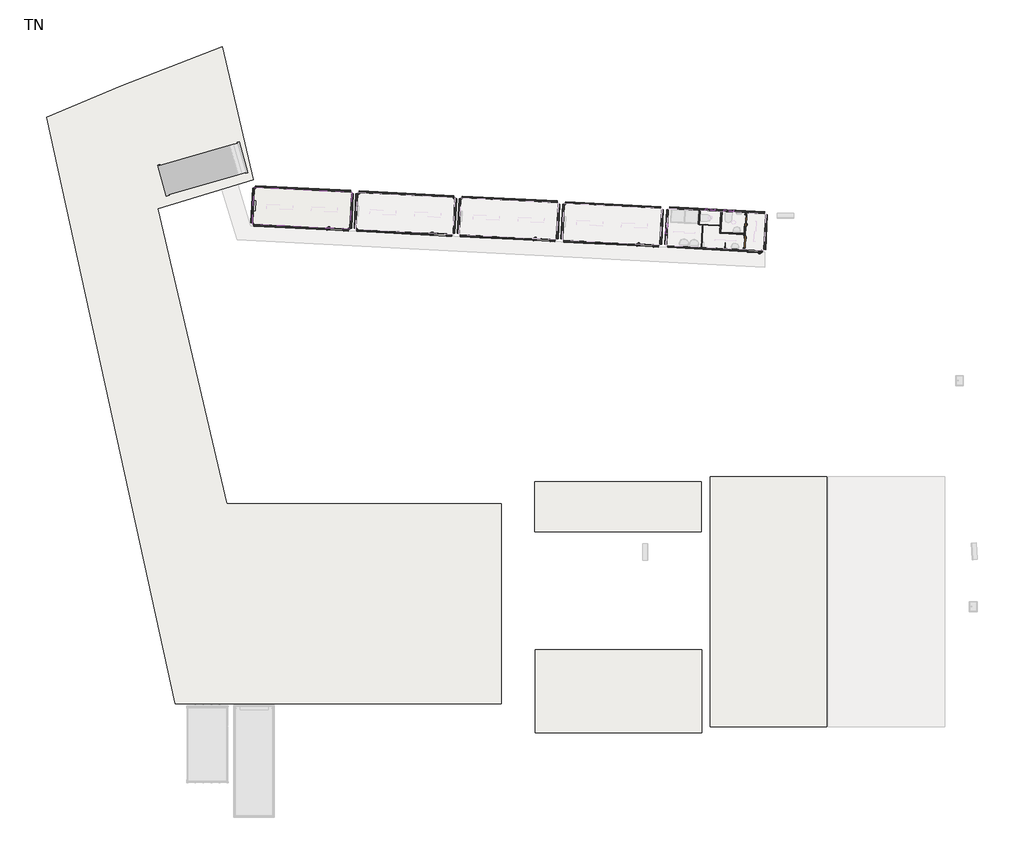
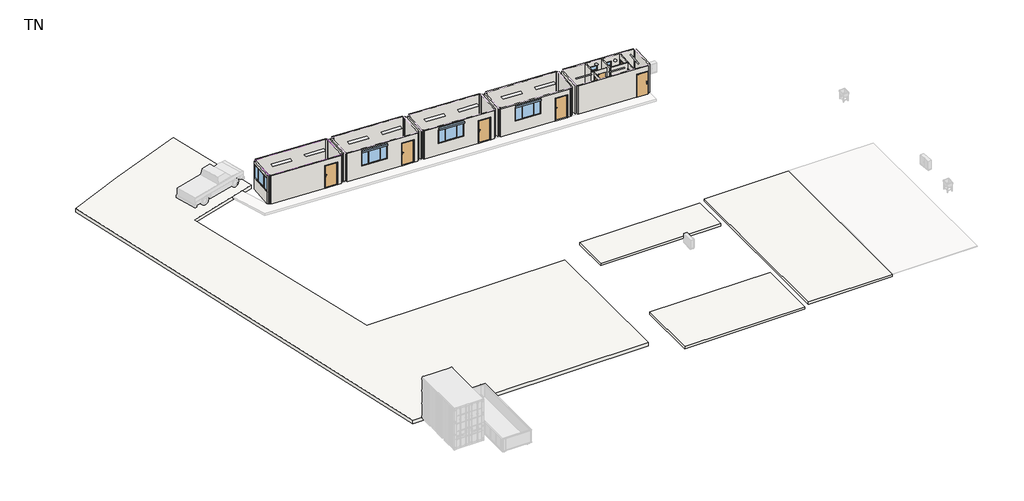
# One storey, part 1 of 2: 31 walls, 9 doors, 7 windows, 5 slabs, 1 covering.
"""IFC4 building model written with IfcOpenShell, lengths in millimetres."""

from ifc_helpers import new_model, si_unit, frame, origin, origin_with_axes, place, context, project, spatial, polyline, outline, extrude, faceted_brep, transform, mapped, element, save
from components import door_1000_x_2000_992f7151, door_625_x_1850_262aa099, door_750_x_1850_40ba4f02, door_750_x_2000_4c170372, door_750_x_2000_b44a9dc9, door_875_x_2000_42ee14d7, wall_747ce406, wall_2a85aa9a, wall_046b6ac7, wall_475fbb6f, window_2071_x_1200_fca12dad, window_2071_x_1200_b3dbcdca, window_600_x_400_23721c96

model = new_model("IFC4")

# Units and contexts
model_context = context("Model", 3, world=origin())
ifc_project = project(units=[si_unit("LENGTHUNIT", "METRE", prefix="MILLI")], contexts=[model_context])

# Site, building, storey
site = spatial("IfcSite", under=ifc_project)
building = spatial("IfcBuilding", under=site)
storey = spatial("IfcBuildingStorey", under=building, Name="TN", Elevation=0.0)

# Covering
placement = place(None, origin())
element("IfcCovering", 1, ObjectType="Constuction_Ceiling_Zeppelin-Rental-GmbH", at=placement, inside=storey, context=model_context, shape_type="SweptSolid", body=[
    extrude(outline(polyline([(-65857.5664145, 57948.3401064), (-65974.2755969, 55721.3962439), (-71816.2583753, 56027.561588), (-71699.5491928, 58254.5054505), (-65857.5664145, 57948.3401064)])), frame((0.0, 0.0, 2459.0), z_axis=(0.0, 0.0, 1.0), x_axis=(1.0, 0.0, 0.0)), (0.0, 0.0, 1.0), 220.0),
])

# Doors
door_1000_x_2000_shape = door_1000_x_2000_992f7151(model_context)
element("IfcDoor", 2, ObjectType="Door_Zeppelin-Rental-GmbH_Single-Leaf-Door : 1000 x 2000", at=placement, inside=storey, context=model_context, shape_type="MappedRepresentation", body=[
    mapped(door_1000_x_2000_shape, transform((-66851.7965616, 55715.313807, 0.0), x_axis=(-0.9986295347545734, 0.05233595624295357, 0.0), y_axis=(-0.05233595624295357, -0.9986295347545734, 0.0), z_axis=(0.0, 0.0, 1.0))),
])
element("IfcDoor", 3, ObjectType="Door_Zeppelin-Rental-GmbH_Single-Leaf-Door : 1000 x 2000", at=placement, inside=storey, context=model_context, shape_type="MappedRepresentation", body=[
    mapped(door_1000_x_2000_shape, transform((-60651.7934389, 55398.7302335, 0.0), x_axis=(-0.9986295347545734, 0.05233595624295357, 0.0), y_axis=(-0.05233595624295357, -0.9986295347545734, 0.0), z_axis=(0.0, 0.0, 1.0))),
])
element("IfcDoor", 4, ObjectType="Door_Zeppelin-Rental-GmbH_Single-Leaf-Door : 1000 x 2000", at=placement, inside=storey, context=model_context, shape_type="MappedRepresentation", body=[
    mapped(door_1000_x_2000_shape, transform((-54444.2967822, 55084.4375081, 0.0), x_axis=(-0.9986295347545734, 0.05233595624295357, 0.0), y_axis=(-0.05233595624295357, -0.9986295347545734, 0.0), z_axis=(0.0, 0.0, 1.0))),
])
element("IfcDoor", 5, ObjectType="Door_Zeppelin-Rental-GmbH_Single-Leaf-Door : 1000 x 2000", at=placement, inside=storey, context=model_context, shape_type="MappedRepresentation", body=[
    mapped(door_1000_x_2000_shape, transform((-48232.2833689, 54750.7709424, 0.0), x_axis=(-0.9986295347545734, 0.05233595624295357, 0.0), y_axis=(-0.05233595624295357, -0.9986295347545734, 0.0), z_axis=(0.0, 0.0, 1.0))),
])
door_625_x_1850_shape = door_625_x_1850_262aa099(model_context)
element("IfcDoor", 6, ObjectType="Door_Zeppelin-Rental-GmbH_Single-Leaf-Door_Sanitary : 625 x 1850", at=placement, inside=storey, context=model_context, shape_type="MappedRepresentation", body=[
    mapped(door_625_x_1850_shape, transform((-44117.1006068, 55970.6684319, 0.0), x_axis=(-0.9986295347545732, 0.05233595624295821, 0.0), y_axis=(-0.05233595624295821, -0.9986295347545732, 0.0), z_axis=(0.0, 0.0, 1.0))),
])
door_750_x_1850_shape = door_750_x_1850_40ba4f02(model_context)
element("IfcDoor", 7, ObjectType="Door_Zeppelin-Rental-GmbH_Single-Leaf-Door_Sanitary : 750 x 1850", at=placement, inside=storey, context=model_context, shape_type="MappedRepresentation", body=[
    mapped(door_750_x_1850_shape, transform((-44803.7552239, 55498.4580723, 0.0), x_axis=(-0.0523359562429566, -0.9986295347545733, 0.0), y_axis=(0.9986295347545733, -0.0523359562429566, 0.0), z_axis=(0.0, 0.0, 1.0))),
])
door_750_x_2000_shape = door_750_x_2000_4c170372(model_context)
element("IfcDoor", 8, ObjectType="Door_Zeppelin-Rental-GmbH_Single-Leaf-Door : 750 x 2000", at=placement, inside=storey, context=model_context, shape_type="MappedRepresentation", body=[
    mapped(door_750_x_2000_shape, transform((-42212.2211669, 56252.861543, 0.0), x_axis=(-0.05233595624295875, -0.9986295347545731, 0.0), y_axis=(0.9986295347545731, -0.05233595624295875, 0.0), z_axis=(0.0, 0.0, 1.0))),
])
door_750_x_2000_2_shape = door_750_x_2000_b44a9dc9(model_context)
element("IfcDoor", 9, ObjectType="Door_Zeppelin-Rental-GmbH_Single-Leaf-Door : 750 x 2000", at=placement, inside=storey, context=model_context, shape_type="MappedRepresentation", body=[
    mapped(door_750_x_2000_2_shape, transform((-42279.2112039, 54974.6154897, 0.0), x_axis=(0.05233595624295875, 0.9986295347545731, 0.0), y_axis=(-0.9986295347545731, 0.05233595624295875, 0.0), z_axis=(0.0, 0.0, 1.0))),
])
door_875_x_2000_shape = door_875_x_2000_42ee14d7(model_context)
element("IfcDoor", 10, ObjectType="Door_Zeppelin-Rental-GmbH_Single-Leaf-Door : 875 x 2000", at=placement, inside=storey, context=model_context, shape_type="MappedRepresentation", body=[
    mapped(door_875_x_2000_shape, transform((-41681.1508654, 54415.5493739, 0.0), x_axis=(0.9986295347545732, -0.05233595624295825, 0.0), y_axis=(0.05233595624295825, 0.9986295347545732, 0.0), z_axis=(0.0, 0.0, 1.0))),
])

# Slabs
element("IfcSlab", 11, ObjectType="Constuction_Floor_Zeppelin-Rental-GmbH", at=placement, inside=storey, context=model_context, shape_type="Brep", body=[
    faceted_brep([(-65857.5664113, 57948.3401686, -21.0), (-65861.5439439, 57872.444324, -21.0), (-65970.2980675, 55797.2920264, -21.0), (-65974.2755969, 55721.3962439, -21.0), (-66050.1714641, 55725.3737778, -21.0), (-71740.3625531, 56023.5840565, -21.0), (-71816.2583753, 56027.561588, -21.0), (-71812.2808426, 56103.4574326, -21.0), (-71703.5267223, 58178.609668, -21.0), (-71699.5491896, 58254.5055127, -21.0), (-71623.6533675, 58250.5279812, -21.0), (-65933.4622784, 57952.3177025, -21.0), (-65974.2755969, 55721.3962439, 0.0), (-65857.5664113, 57948.3401686, 0.0), (-71699.5491896, 58254.5055127, 0.0), (-71816.2583753, 56027.561588, 0.0), (-67348.3898593, 55793.4105209, 0.0), (-66349.7603245, 55741.0745647, 0.0)], [[[0, 1, 2, 3, 4, 5, 6, 7, 8, 9, 10, 11]], [[12, 13, 14, 15, 16, 17]], [[13, 0, 11, 10, 9, 14]], [[0, 13, 12, 3, 2, 1]], [[3, 12, 17, 16, 15, 6, 5, 4]], [[6, 15, 14, 9, 8, 7]]]),
])
element("IfcSlab", 12, ObjectType="zone de stockage 2", at=placement, inside=storey, context=model_context, shape_type="SweptSolid", body=[
    extrude(outline(polyline([(-44321.3156879, 40855.3840948), (-37321.3156879, 40855.3840948), (-37321.3156879, 25855.3840948), (-44321.3156879, 25855.3840948), (-44321.3156879, 40855.3840948)])), frame((0.0, 0.0, -200.0), z_axis=(0.0, 0.0, 1.0), x_axis=(1.0, 0.0, 0.0)), (0.0, 0.0, 1.0), 200.0),
])
element("IfcSlab", 13, ObjectType="zone de stockage 2", at=placement, inside=storey, context=model_context, shape_type="SweptSolid", body=[
    extrude(outline(polyline([(-54840.1965481, 25484.8671589), (-54840.1965481, 30484.8671589), (-44840.1965481, 30484.8671589), (-44840.1965481, 25484.8671589), (-54840.1965481, 25484.8671589)])), frame((0.0, 0.0, -200.0), z_axis=(0.0, 0.0, 1.0), x_axis=(1.0, 0.0, 0.0)), (0.0, 0.0, 1.0), 200.0),
])
element("IfcSlab", 14, ObjectType="zone de stockage 2", at=placement, inside=storey, context=model_context, shape_type="SweptSolid", body=[
    extrude(outline(polyline([(-54863.7782907, 40570.1013524), (-44863.7782907, 40570.1013524), (-44863.7782907, 37570.1013524), (-54863.7782907, 37570.1013524), (-54863.7782907, 40570.1013524)])), frame((0.0, 0.0, -200.0), z_axis=(0.0, 0.0, 1.0), x_axis=(1.0, 0.0, 0.0)), (0.0, 0.0, 1.0), 200.0),
])
element("IfcSlab", 15, ObjectType="Voirie", at=placement, inside=storey, context=model_context, shape_type="SweptSolid", body=[
    extrude(outline(polyline([(-73620.4435079, 66700.8768306), (-71759.7477256, 58714.7757039), (-77497.5762613, 56960.5454756), (-73367.739281, 39235.2966334), (-56867.739281, 39235.2966334), (-56867.739281, 27235.2966334), (-76467.739281, 27235.2966334), (-84187.1336343, 62459.5853338), (-79684.0098364, 64359.2612816), (-73620.4435079, 66700.8768306)])), frame((0.0, 0.0, -300.0), z_axis=(0.0, 0.0, 1.0), x_axis=(1.0, 0.0, 0.0)), (0.0, 0.0, 1.0), 300.0),
])

# Walls
element("IfcWall", 16, ObjectType="Constuction_Wall_Zeppelin-Rental-GmbH", at=placement, inside=storey, context=model_context, shape_type="SweptSolid", body=[
    extrude(outline(polyline([(-65933.4622817, 57952.3176403), (-71623.6533707, 58250.527919), (-71618.2104313, 58354.3853906), (-65928.0193422, 58056.1751119), (-65933.4622817, 57952.3176403)])), frame((0.0, 0.0, -21.0), z_axis=(0.0, 0.0, 1.0), x_axis=(1.0, 0.0, 0.0)), (0.0, 0.0, 1.0), 2480.0),
])
element("IfcWall", 17, ObjectType="Constuction_Wall_Zeppelin-Rental-GmbH", at=placement, inside=storey, context=model_context, shape_type="SweptSolid", body=[
    extrude(outline(polyline([(-65970.2980675, 55797.2920264), (-65861.5439439, 57872.444324), (-65757.6864723, 57867.0013845), (-65866.4405959, 55791.8490869), (-65970.2980675, 55797.2920264)])), frame((0.0, 0.0, -21.0), z_axis=(0.0, 0.0, 1.0), x_axis=(1.0, 0.0, 0.0)), (0.0, 0.0, 1.0), 2480.0),
])
element("IfcWall", 18, ObjectType="Constuction_Wall_Zeppelin-Rental-GmbH", at=placement, inside=storey, context=model_context, shape_type="SweptSolid", body=[
    extrude(outline(polyline([(0.0, 0.0), (0.0, -2480.0), (-5698.0, -2480.0), (-5698.0, 0.0), (0.0, 0.0)]), holes=[polyline([(-1299.9999999, -21.0), (-1299.9999999, -2021.0), (-300.0, -2021.0), (-300.0, -21.0), (-1299.9999999, -21.0)])]), frame((-66055.6144036, 55621.5163062, -21.0), z_axis=(0.05233595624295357, 0.9986295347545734, 0.0), x_axis=(0.9986295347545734, -0.05233595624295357, 0.0)), (0.0, 0.0, 1.0), 104.0),
])
element("IfcWall", 19, ObjectType="Constuction_Wall_Zeppelin-Rental-GmbH", at=placement, inside=storey, context=model_context, shape_type="SweptSolid", body=[
    extrude(outline(polyline([(0.0, 0.0), (2078.0000623, 0.0), (2078.0000623, -2480.0), (0.0, -2480.0), (0.0, 0.0)]), holes=[polyline([(3.5, -2221.0), (2074.5000001, -2221.0), (2074.5000001, -1021.0), (3.5, -1021.0), (3.5, -2221.0)])]), frame((-71812.2808426, 56103.4574326, -21.0), z_axis=(-0.9986295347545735, 0.052335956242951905, 0.0), x_axis=(0.052335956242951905, 0.9986295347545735, 0.0)), (0.0, 0.0, 1.0), 104.0),
])
element("IfcWall", 20, ObjectType="Constuction_Wall_Zeppelin-Rental-GmbH", at=placement, inside=storey, context=model_context, shape_type="SweptSolid", body=[
    extrude(outline(polyline([(-59733.4591589, 57635.7340668), (-65423.650248, 57933.9443455), (-65418.2073085, 58037.8018171), (-59728.0162195, 57739.5915384), (-59733.4591589, 57635.7340668)])), frame((0.0, 0.0, -21.0), z_axis=(0.0, 0.0, 1.0), x_axis=(1.0, 0.0, 0.0)), (0.0, 0.0, 1.0), 2480.0),
])
element("IfcWall", 21, ObjectType="Constuction_Wall_Zeppelin-Rental-GmbH", at=placement, inside=storey, context=model_context, shape_type="SweptSolid", body=[
    extrude(outline(polyline([(-59770.2949448, 55480.7084529), (-59661.5408212, 57555.8607505), (-59557.6833496, 57550.417811), (-59666.4374732, 55475.2655134), (-59770.2949448, 55480.7084529)])), frame((0.0, 0.0, -21.0), z_axis=(0.0, 0.0, 1.0), x_axis=(1.0, 0.0, 0.0)), (0.0, 0.0, 1.0), 2480.0),
])
element("IfcWall", 22, ObjectType="Constuction_Wall_Zeppelin-Rental-GmbH", at=placement, inside=storey, context=model_context, shape_type="SweptSolid", body=[
    extrude(outline(polyline([(0.0, 0.0), (0.0, -2480.0), (-5698.0, -2480.0), (-5698.0, 0.0), (0.0, 0.0)]), holes=[polyline([(-1300.0, -21.0), (-1300.0, -2021.0), (-300.0, -2021.0), (-300.0, -21.0), (-1300.0, -21.0)]), polyline([(-4534.5, -1021.0), (-4534.5, -2221.0), (-2463.5, -2221.0), (-2463.5, -1021.0), (-4534.5, -1021.0)])]), frame((-59855.6112808, 55304.9327327, -21.0), z_axis=(0.05233595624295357, 0.9986295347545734, 0.0), x_axis=(0.9986295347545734, -0.05233595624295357, 0.0)), (0.0, 0.0, 1.0), 104.0),
])
element("IfcWall", 23, ObjectType="Constuction_Wall_Zeppelin-Rental-GmbH", at=placement, inside=storey, context=model_context, shape_type="SweptSolid", body=[
    extrude(outline(polyline([(-65503.5235995, 57862.0260945), (-65612.2777198, 55786.8738591), (-65716.1351914, 55792.3167985), (-65607.3810711, 57867.469034), (-65503.5235995, 57862.0260945)])), frame((0.0, 0.0, -21.0), z_axis=(0.0, 0.0, 1.0), x_axis=(1.0, 0.0, 0.0)), (0.0, 0.0, 1.0), 2480.0),
])
element("IfcWall", 24, ObjectType="Constuction_Wall_Zeppelin-Rental-GmbH", at=placement, inside=storey, context=model_context, shape_type="SweptSolid", body=[
    extrude(outline(polyline([(-53525.9625022, 57321.4413414), (-59216.1535913, 57619.6516201), (-59210.7106518, 57723.5090917), (-53520.5195628, 57425.298813), (-53525.9625022, 57321.4413414)])), frame((0.0, 0.0, -21.0), z_axis=(0.0, 0.0, 1.0), x_axis=(1.0, 0.0, 0.0)), (0.0, 0.0, 1.0), 2480.0),
])
element("IfcWall", 25, ObjectType="Constuction_Wall_Zeppelin-Rental-GmbH", at=placement, inside=storey, context=model_context, shape_type="SweptSolid", body=[
    extrude(outline(polyline([(-53562.7982881, 55166.4157275), (-53454.0441645, 57241.5680251), (-53350.1866929, 57236.1250856), (-53458.9408165, 55160.972788), (-53562.7982881, 55166.4157275)])), frame((0.0, 0.0, -21.0), z_axis=(0.0, 0.0, 1.0), x_axis=(1.0, 0.0, 0.0)), (0.0, 0.0, 1.0), 2480.0),
])
element("IfcWall", 26, ObjectType="Constuction_Wall_Zeppelin-Rental-GmbH", at=placement, inside=storey, context=model_context, shape_type="SweptSolid", body=[
    extrude(outline(polyline([(0.0, 0.0), (0.0, -2480.0), (-5698.0000001, -2480.0), (-5698.0000001, 0.0), (0.0, 0.0)]), holes=[polyline([(-1300.0, -21.0), (-1300.0, -2021.0), (-300.0, -2021.0), (-300.0, -21.0), (-1300.0, -21.0)]), polyline([(-4534.5000001, -1021.0), (-4534.5000001, -2221.0), (-2463.5, -2221.0), (-2463.5, -1021.0), (-4534.5000001, -1021.0)])]), frame((-53648.1146241, 54990.6400073, -21.0), z_axis=(0.05233595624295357, 0.9986295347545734, 0.0), x_axis=(0.9986295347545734, -0.05233595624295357, 0.0)), (0.0, 0.0, 1.0), 104.0),
])
element("IfcWall", 27, ObjectType="Constuction_Wall_Zeppelin-Rental-GmbH", at=placement, inside=storey, context=model_context, shape_type="SweptSolid", body=[
    extrude(outline(polyline([(-59296.0269428, 57547.7333691), (-59404.7810632, 55472.5811337), (-59508.6385348, 55478.0240731), (-59399.8844144, 57553.1763086), (-59296.0269428, 57547.7333691)])), frame((0.0, 0.0, -21.0), z_axis=(0.0, 0.0, 1.0), x_axis=(1.0, 0.0, 0.0)), (0.0, 0.0, 1.0), 2480.0),
])
element("IfcWall", 28, ObjectType="Constuction_Wall_Zeppelin-Rental-GmbH", at=placement, inside=storey, context=model_context, shape_type="SweptSolid", body=[
    extrude(outline(polyline([(-47313.9490889, 56987.7747757), (-53004.1401779, 57285.9850544), (-52998.6972385, 57389.842526), (-47308.5061495, 57091.6322473), (-47313.9490889, 56987.7747757)])), frame((0.0, 0.0, -21.0), z_axis=(0.0, 0.0, 1.0), x_axis=(1.0, 0.0, 0.0)), (0.0, 0.0, 1.0), 2480.0),
])
element("IfcWall", 29, ObjectType="Constuction_Wall_Zeppelin-Rental-GmbH", at=placement, inside=storey, context=model_context, shape_type="SweptSolid", body=[
    extrude(outline(polyline([(-47350.7848748, 54832.7491618), (-47242.0307512, 56907.9014594), (-47138.1732796, 56902.45852), (-47246.9274032, 54827.3062224), (-47350.7848748, 54832.7491618)])), frame((0.0, 0.0, -21.0), z_axis=(0.0, 0.0, 1.0), x_axis=(1.0, 0.0, 0.0)), (0.0, 0.0, 1.0), 2480.0),
])
element("IfcWall", 30, ObjectType="Constuction_Wall_Zeppelin-Rental-GmbH", at=placement, inside=storey, context=model_context, shape_type="SweptSolid", body=[
    extrude(outline(polyline([(0.0, 0.0), (0.0, -2480.0), (-5698.0, -2480.0), (-5698.0, 0.0), (0.0, 0.0)]), holes=[polyline([(-1300.0, -21.0), (-1300.0, -2021.0), (-300.0, -2021.0), (-300.0, -21.0), (-1300.0, -21.0)]), polyline([(-4534.5, -1021.0), (-4534.5, -2221.0), (-2463.5, -2221.0), (-2463.5, -1021.0), (-4534.5, -1021.0)])]), frame((-47436.1012108, 54656.9734416, -21.0), z_axis=(0.05233595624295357, 0.9986295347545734, 0.0), x_axis=(0.9986295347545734, -0.05233595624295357, 0.0)), (0.0, 0.0, 1.0), 104.0),
])
element("IfcWall", 31, ObjectType="Constuction_Wall_Zeppelin-Rental-GmbH", at=placement, inside=storey, context=model_context, shape_type="SweptSolid", body=[
    extrude(outline(polyline([(-53084.0135295, 57214.0668034), (-53192.7676498, 55138.914568), (-53296.6251214, 55144.3575075), (-53187.8710011, 57219.5097429), (-53084.0135295, 57214.0668034)])), frame((0.0, 0.0, -21.0), z_axis=(0.0, 0.0, 1.0), x_axis=(1.0, 0.0, 0.0)), (0.0, 0.0, 1.0), 2480.0),
])
element("IfcWall", 32, ObjectType="Constuction_Wall_Zeppelin-Rental-GmbH", at=placement, inside=storey, context=model_context, shape_type="Brep", body=[
    faceted_brep([(-46760.0862789, 56966.8567936, -21.0), (-41069.8951899, 56668.646515, -21.0), (-41069.8951899, 56668.646515, 2459.0), (-42152.4095605, 56725.3786892, 2459.0), (-42222.3136279, 56729.0422061, 2459.0), (-43610.4087038, 56801.7891865, 2459.0), (-43680.3127712, 56805.4527034, 2459.0), (-44928.5996896, 56870.8726487, 2459.0), (-44998.5037571, 56874.5361656, 2459.0), (-46760.0862789, 56966.8567936, 2459.0), (-44636.9998655, 56855.5905495, 1612.0), (-44636.9998655, 56855.5905495, 2012.0), (-44037.8221446, 56824.1889757, 2012.0), (-44037.8221446, 56824.1889757, 1612.0), (-43503.5660078, 56796.189798, 1612.0), (-43503.5660078, 56796.189798, 2012.0), (-42904.3882869, 56764.7882243, 2012.0), (-42904.3882869, 56764.7882243, 1612.0), (-46754.6433394, 57070.7142652, -21.0), (-46754.6433394, 57070.7142652, 2459.0), (-41064.4522504, 56772.5039866, 2459.0), (-41064.4522504, 56772.5039866, -21.0), (-44631.556926, 56959.4480211, 1612.0), (-44032.3792052, 56928.0464473, 1612.0), (-44032.3792052, 56928.0464473, 2012.0), (-44631.556926, 56959.4480211, 2012.0), (-43498.1230683, 56900.0472696, 1612.0), (-42898.9453475, 56868.6456959, 1612.0), (-42898.9453475, 56868.6456959, 2012.0), (-43498.1230683, 56900.0472696, 2012.0)], [[[0, 1, 2, 3, 4, 5, 6, 7, 8, 9], [10, 11, 12, 13], [14, 15, 16, 17]], [[18, 19, 20, 21], [22, 23, 24, 25], [26, 27, 28, 29]], [[1, 0, 18, 21]], [[2, 1, 21, 20]], [[9, 8, 7, 6, 5, 4, 3, 2, 20, 19]], [[0, 9, 19, 18]], [[11, 10, 22, 25]], [[12, 11, 25, 24]], [[13, 12, 24, 23]], [[10, 13, 23, 22]], [[15, 14, 26, 29]], [[16, 15, 29, 28]], [[17, 16, 28, 27]], [[14, 17, 27, 26]]]),
])
element("IfcWall", 33, ObjectType="Constuction_Wall_Zeppelin-Rental-GmbH", at=placement, inside=storey, context=model_context, shape_type="SweptSolid", body=[
    extrude(outline(polyline([(-41106.7309757, 54513.620901), (-40997.9768521, 56588.7731987), (-40894.1193805, 56583.3302592), (-41002.8735041, 54508.1779616), (-41106.7309757, 54513.620901)])), frame((0.0, 0.0, -21.0), z_axis=(0.0, 0.0, 1.0), x_axis=(1.0, 0.0, 0.0)), (0.0, 0.0, 1.0), 2480.0),
])
element("IfcWall", 34, ObjectType="Constuction_Wall_Zeppelin-Rental-GmbH", at=placement, inside=storey, context=model_context, shape_type="Brep", body=[
    faceted_brep([(-41186.6043723, 54441.7026524, -21.0), (-46876.7954613, 54739.9129311, -21.0), (-46876.7954613, 54739.9129311, 2459.0), (-42339.0228104, 54502.0983436, 2459.0), (-42269.1187429, 54498.4348267, 2459.0), (-41186.6043723, 54441.7026524, 2459.0), (-41241.5289742, 54444.5811289, 2000.0), (-42115.3298171, 54490.3750906, 2000.0), (-42115.3298171, 54490.3750906, 0.0), (-41241.5289742, 54444.5811289, 0.0), (-46882.2384008, 54636.0554595, -21.0), (-41192.0473117, 54337.8451808, -21.0), (-41192.0473117, 54337.8451808, 2459.0), (-46882.2384008, 54636.0554595, 2459.0), (-42120.7727565, 54386.517619, 2000.0), (-41246.9719136, 54340.7236572, 2000.0), (-41246.9719136, 54340.7236572, 0.0), (-42120.7727565, 54386.517619, 0.0)], [[[0, 1, 2, 3, 4, 5], [6, 7, 8, 9]], [[10, 11, 12, 13], [14, 15, 16, 17]], [[1, 0, 11, 10]], [[2, 1, 10, 13]], [[5, 4, 3, 2, 13, 12]], [[0, 5, 12, 11]], [[6, 15, 14, 7]], [[7, 14, 17, 8]], [[8, 17, 16, 9]], [[15, 6, 9, 16]]]),
])
element("IfcWall", 35, ObjectType="Constuction_Wall_Zeppelin-Rental-GmbH", at=placement, inside=storey, context=model_context, shape_type="SweptSolid", body=[
    extrude(outline(polyline([(0.0, 0.0), (2078.0000623, 0.0), (2078.0000623, -2480.0), (0.0, -2480.0), (0.0, 0.0)]), holes=[polyline([(1238.9999999, -2033.0), (1238.9999999, -1633.0), (639.0, -1633.0), (639.0, -2033.0), (1238.9999999, -2033.0)])]), frame((-46948.7137508, 54819.7863073, -21.0), z_axis=(-0.9986295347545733, 0.05233595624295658, 0.0), x_axis=(0.05233595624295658, 0.9986295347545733, 0.0)), (0.0, 0.0, 1.0), 104.0),
])
element("IfcWall", 36, ObjectType="Constuction_Wall_Zeppelin-Rental-GmbH_Interior", at=placement, inside=storey, context=model_context, shape_type="Brep", body=[
    faceted_brep([(-43680.3127712, 56805.4527034, 0.0), (-43749.3962269, 55487.2618419, 0.0), (-43749.3962269, 55487.2618419, 2459.0), (-43680.3127712, 56805.4527034, 2459.0), (-43610.4087038, 56801.7891865, 0.0), (-43610.4087038, 56801.7891865, 2459.0), (-43675.8286425, 55553.5023924, 2459.0), (-43679.4921595, 55483.598325, 2459.0), (-43679.4921595, 55483.598325, 0.0), (-43675.8286425, 55553.5023924, 0.0)], [[[0, 1, 2, 3]], [[4, 5, 6, 7, 8, 9]], [[1, 0, 4, 9, 8]], [[3, 2, 7, 6, 5]], [[0, 3, 5, 4]], [[2, 1, 8, 7]]]),
])
element("IfcWall", 37, ObjectType="Constuction_Wall_Zeppelin-Rental-GmbH_Interior", at=placement, inside=storey, context=model_context, shape_type="SweptSolid", body=[
    extrude(outline(polyline([(-42291.3970837, 55410.8513446), (-43679.4921595, 55483.598325), (-43675.8286425, 55553.5023924), (-42287.7335667, 55480.755412), (-42291.3970837, 55410.8513446)])), origin_with_axes(), (0.0, 0.0, 1.0), 2459.0),
])
element("IfcWall", 38, ObjectType="Constuction_Wall_Zeppelin-Rental-GmbH_Interior", at=placement, inside=storey, context=model_context, shape_type="Brep", body=[
    faceted_brep([(-42339.0228104, 54502.0983436, 2459.0), (-42291.3970837, 55410.8513446, 2459.0), (-42287.7335667, 55480.755412, 2459.0), (-42222.3136279, 56729.0422061, 2459.0), (-42222.3136279, 56729.0422061, 0.0), (-42227.547217, 56629.179377, 0.0), (-42227.547217, 56629.179377, 2000.0), (-42266.7991842, 55880.2072259, 2000.0), (-42266.7991842, 55880.2072259, 0.0), (-42287.7335667, 55480.755412, 0.0), (-42291.3970837, 55410.8513446, 0.0), (-42294.5372541, 55350.9333237, 0.0), (-42294.5372541, 55350.9333237, 2000.0), (-42333.7892213, 54601.9611727, 2000.0), (-42333.7892213, 54601.9611727, 0.0), (-42339.0228104, 54502.0983436, 0.0), (-42152.4095605, 56725.3786892, 2459.0), (-42269.1187429, 54498.4348267, 2459.0), (-42269.1187429, 54498.4348267, 0.0), (-42263.8851538, 54598.2976557, 0.0), (-42263.8851538, 54598.2976557, 2000.0), (-42224.6331866, 55347.2698068, 2000.0), (-42224.6331866, 55347.2698068, 0.0), (-42196.8951168, 55876.543709, 0.0), (-42196.8951168, 55876.543709, 2000.0), (-42157.6431496, 56625.5158601, 2000.0), (-42157.6431496, 56625.5158601, 0.0), (-42152.4095605, 56725.3786892, 0.0)], [[[0, 1, 2, 3, 4, 5, 6, 7, 8, 9, 10, 11, 12, 13, 14, 15]], [[16, 17, 18, 19, 20, 21, 22, 23, 24, 25, 26, 27]], [[4, 27, 26, 5]], [[18, 15, 14, 19]], [[8, 23, 22, 11, 10, 9]], [[3, 2, 1, 0, 17, 16]], [[4, 3, 16, 27]], [[0, 15, 18, 17]], [[8, 7, 24, 23]], [[7, 6, 25, 24]], [[6, 5, 26, 25]], [[21, 12, 11, 22]], [[12, 21, 20, 13]], [[13, 20, 19, 14]]]),
])
element("IfcWall", 39, ObjectType="Constuction_Wall_Zeppelin-Rental-GmbH_Interior", at=placement, inside=storey, context=model_context, shape_type="Brep", body=[
    faceted_brep([(-44998.5037571, 56874.5361656, 0.0), (-45043.669684, 56012.7189393, 0.0), (-45043.669684, 56012.7189393, 2459.0), (-44998.5037571, 56874.5361656, 2459.0), (-44928.5996896, 56870.8726487, 0.0), (-44928.5996896, 56870.8726487, 2459.0), (-44973.7656166, 56009.0554224, 2459.0), (-44973.7656166, 56009.0554224, 2194.0), (-44973.7656166, 56009.0554224, 160.0), (-44973.7656166, 56009.0554224, 0.0)], [[[0, 1, 2, 3]], [[4, 5, 6, 7, 8, 9]], [[1, 0, 4, 9]], [[3, 2, 6, 5]], [[0, 3, 5, 4]], [[2, 1, 9, 8, 7, 6]]]),
])
element("IfcWall", 40, ObjectType="Constuction_Wall_Zeppelin-Rental-GmbH_Partition", at=placement, inside=storey, context=model_context, shape_type="Brep", body=[
    faceted_brep([(-43725.4786982, 55943.6354771, 2194.0), (-44771.0438211, 55998.4312233, 2194.0), (-44784.026005, 55999.1115907, 2194.0), (-44973.7656166, 56009.0554224, 2194.0), (-44973.7656166, 56009.0554224, 160.0), (-44429.5125202, 55980.5323262, 160.0), (-44429.5125202, 55980.5323262, 1850.0), (-43805.369061, 55947.8223536, 1850.0), (-43805.369061, 55947.8223536, 160.0), (-43725.4786982, 55943.6354771, 160.0), (-44973.0852492, 56022.0376063, 2194.0), (-43724.7983307, 55956.617661, 2194.0), (-43724.7983307, 55956.617661, 160.0), (-43804.6886935, 55960.8045375, 160.0), (-43804.6886935, 55960.8045375, 1850.0), (-44428.8321527, 55993.5145102, 1850.0), (-44428.8321527, 55993.5145102, 160.0), (-44973.0852492, 56022.0376063, 160.0)], [[[0, 1, 2, 3, 4, 5, 6, 7, 8, 9]], [[10, 11, 12, 13, 14, 15, 16, 17]], [[4, 17, 16, 5]], [[12, 9, 8, 13]], [[3, 2, 1, 0, 11, 10]], [[4, 3, 10, 17]], [[0, 9, 12, 11]], [[15, 6, 5, 16]], [[6, 15, 14, 7]], [[7, 14, 13, 8]]]),
])
element("IfcWall", 41, ObjectType="Constuction_Wall_Zeppelin-Rental-GmbH_Partition", at=placement, inside=storey, context=model_context, shape_type="SweptSolid", body=[
    extrude(outline(polyline([(0.1265888, -2094.0), (-1366.8734735, -2094.0), (-1366.8734735, 0.0), (-875.873349, 0.0), (-875.873349, -1750.0), (-125.873349, -1750.0), (-125.873349, 0.0), (0.1265888, 0.0), (0.1265888, -2094.0)])), frame((-44771.0504462, 55998.304808, 100.0), z_axis=(-0.9986295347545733, 0.0523359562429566, 0.0), x_axis=(0.0523359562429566, 0.9986295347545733, 0.0)), (0.0, 0.0, 1.0), 13.0),
])
element("IfcWall", 42, ObjectType="Constuction_Wall_Zeppelin-Rental-GmbH_Partition", at=placement, inside=storey, context=model_context, shape_type="SweptSolid", body=[
    extrude(outline(polyline([(-43409.6214891, 54903.7230436), (-43427.6796697, 54559.152432), (-43440.6618536, 54559.8327994), (-43422.6036731, 54904.403411), (-43409.6214891, 54903.7230436)])), frame((0.0, 0.0, 400.0), z_axis=(0.0, 0.0, 1.0), x_axis=(1.0, 0.0, 0.0)), (0.0, 0.0, 1.0), 1184.0),
])
wall_shape = wall_747ce406(model_context)
element("IfcWall", 43, ObjectType="Constuction_Wall_Zeppelin-Rental-GmbH_Corner : Constuction_Wall_Zeppelin-Rental-GmbH_Corner", at=placement, inside=storey, context=model_context, shape_type="MappedRepresentation", body=[
    mapped(wall_shape, transform((-4420.2601957, -1681.6336619, 0.0), x_axis=(0.9986295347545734, -0.05233595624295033, 0.0), y_axis=(0.05233595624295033, 0.9986295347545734, 0.0), z_axis=(0.0, 0.0, 1.0))),
])
wall_2_shape = wall_2a85aa9a(model_context)
element("IfcWall", 44, ObjectType="Constuction_Wall_Zeppelin-Rental-GmbH_Corner1 : Constuction_Wall_Zeppelin-Rental-GmbH_Corner", at=placement, inside=storey, context=model_context, shape_type="MappedRepresentation", body=[
    mapped(wall_2_shape, transform((-6345.9085661, -1167.7710607, 0.0), x_axis=(0.9986295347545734, -0.05233595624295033, 0.0), y_axis=(0.05233595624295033, 0.9986295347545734, 0.0), z_axis=(0.0, 0.0, 1.0))),
])
wall_3_shape = wall_046b6ac7(model_context)
element("IfcWall", 45, ObjectType="Constuction_Wall_Zeppelin-Rental-GmbH_Corner2 : Constuction_Wall_Zeppelin-Rental-GmbH_Corner", at=placement, inside=storey, context=model_context, shape_type="MappedRepresentation", body=[
    mapped(wall_3_shape, transform((-7350.1010066, -1068.2697477, 0.0), x_axis=(0.9986295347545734, -0.05233595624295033, 0.0), y_axis=(0.05233595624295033, 0.9986295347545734, 0.0), z_axis=(0.0, 0.0, 1.0))),
])
wall_4_shape = wall_475fbb6f(model_context)
element("IfcWall", 46, ObjectType="Constuction_Wall_Zeppelin-Rental-GmbH_Corner3 : Constuction_Wall_Zeppelin-Rental-GmbH_Corner", at=placement, inside=storey, context=model_context, shape_type="MappedRepresentation", body=[
    mapped(wall_4_shape, transform((-8296.2204634, -648.2311298, 0.0), x_axis=(0.9986295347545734, -0.05233595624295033, 0.0), y_axis=(0.05233595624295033, 0.9986295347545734, 0.0), z_axis=(0.0, 0.0, 1.0))),
])

# Windows
window_2071_x_1200_shape = window_2071_x_1200_fca12dad(model_context)
element("IfcWindow", 47, ObjectType="Window_Zeppelin-Rental-GmbH_Triple : 2071 x 1200", at=placement, inside=storey, context=model_context, shape_type="MappedRepresentation", body=[
    mapped(window_2071_x_1200_shape, transform((-71809.1657777, 57143.7200465, 0.0), x_axis=(-0.052335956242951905, -0.9986295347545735, 0.0), y_axis=(0.9986295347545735, -0.052335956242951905, 0.0), z_axis=(0.0, 0.0, 1.0))),
])
window_2071_x_1200_2_shape = window_2071_x_1200_b3dbcdca(model_context)
element("IfcWindow", 48, ObjectType="Window_Zeppelin-Rental-GmbH_Triple : 2071 x 1200", at=placement, inside=storey, context=model_context, shape_type="MappedRepresentation", body=[
    mapped(window_2071_x_1200_2_shape, transform((-63347.1294957, 55539.3182372, 0.0), x_axis=(0.9986295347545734, -0.05233595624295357, 0.0), y_axis=(0.05233595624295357, 0.9986295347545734, 0.0), z_axis=(0.0, 0.0, 1.0))),
])
element("IfcWindow", 49, ObjectType="Window_Zeppelin-Rental-GmbH_Triple : 2071 x 1200", at=placement, inside=storey, context=model_context, shape_type="MappedRepresentation", body=[
    mapped(window_2071_x_1200_2_shape, transform((-57139.632839, 55225.0255119, 0.0), x_axis=(0.9986295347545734, -0.05233595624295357, 0.0), y_axis=(0.05233595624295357, 0.9986295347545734, 0.0), z_axis=(0.0, 0.0, 1.0))),
])
element("IfcWindow", 50, ObjectType="Window_Zeppelin-Rental-GmbH_Triple : 2071 x 1200", at=placement, inside=storey, context=model_context, shape_type="MappedRepresentation", body=[
    mapped(window_2071_x_1200_2_shape, transform((-50927.6194256, 54891.3589462, 0.0), x_axis=(0.9986295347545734, -0.05233595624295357, 0.0), y_axis=(0.05233595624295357, 0.9986295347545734, 0.0), z_axis=(0.0, 0.0, 1.0))),
])
window_600_x_400_shape = window_600_x_400_23721c96(model_context)
element("IfcWindow", 51, ObjectType="Window_Zeppelin-Rental-GmbH : 600 x 400", at=placement, inside=storey, context=model_context, shape_type="MappedRepresentation", body=[
    mapped(window_600_x_400_shape, transform((-46950.8322815, 55760.1859676, 1.0), x_axis=(-0.05233595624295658, -0.9986295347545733, 0.0), y_axis=(0.9986295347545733, -0.05233595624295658, 0.0), z_axis=(0.0, 0.0, 1.0))),
])
element("IfcWindow", 52, ObjectType="Window_Zeppelin-Rental-GmbH : 600 x 400", at=placement, inside=storey, context=model_context, shape_type="MappedRepresentation", body=[
    mapped(window_600_x_400_shape, transform((-44334.6545929, 56892.4852405, 1.0), x_axis=(0.9986295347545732, -0.05233595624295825, 0.0), y_axis=(0.05233595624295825, 0.9986295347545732, 0.0), z_axis=(0.0, 0.0, 1.0))),
])
element("IfcWindow", 53, ObjectType="Window_Zeppelin-Rental-GmbH : 600 x 400", at=placement, inside=storey, context=model_context, shape_type="MappedRepresentation", body=[
    mapped(window_600_x_400_shape, transform((-43201.2207352, 56833.0844891, 1.0), x_axis=(0.9986295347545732, -0.05233595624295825, 0.0), y_axis=(0.05233595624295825, 0.9986295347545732, 0.0), z_axis=(0.0, 0.0, 1.0))),
])

save(model, "model.ifc")
